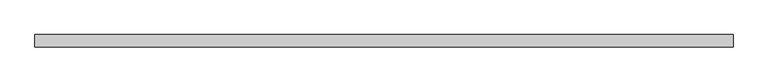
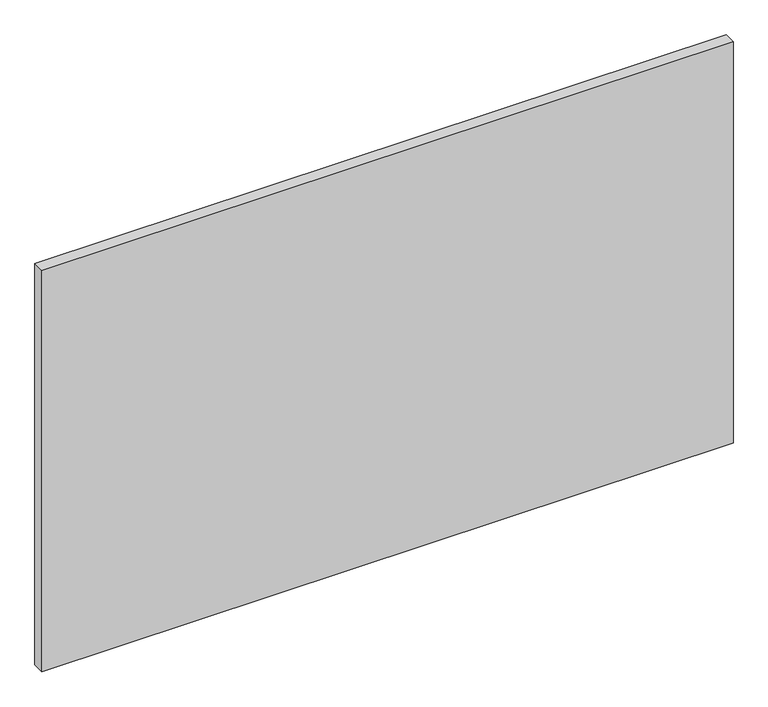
"""IFC4 building model written with IfcOpenShell, lengths in millimetres: plate geometry, Системная панель : С остеклением."""

from ifc_helpers import new_model, si_unit, origin, origin_with_axes, place, context, project, spatial, polyline, outline, extrude, source, transform, mapped, element, save


def plate_31d2c7fd(model_context):
    return source(origin(), model_context, "Body", "SweptSolid", [
        extrude(outline(polyline([(712.5, 24.5), (-712.5, 24.5), (-712.5, 49.5), (712.5, 49.5), (712.5, 24.5)])), origin_with_axes(), (0.0, 0.0, 1.0), 875.0),
    ])


if __name__ == "__main__":
    model = new_model("IFC4")
    model_context = context("Model", 3, world=origin())
    ifc_project = project(units=[si_unit("LENGTHUNIT", "METRE", prefix="MILLI")], contexts=[model_context])
    site = spatial("IfcSite", under=ifc_project)
    building = spatial("IfcBuilding", under=site)
    placement = place(None, origin())
    plate_shape = plate_31d2c7fd(model_context)
    element("IfcPlate", 1, ObjectType="Системная панель : С остеклением", at=placement, inside=building, context=model_context, shape_type="MappedRepresentation", body=[
        mapped(plate_shape, transform((0.0, 0.0, 0.0), x_axis=(1.0, 0.0, 0.0), y_axis=(0.0, 1.0, 0.0), z_axis=(0.0, 0.0, 1.0))),
    ])
    save(model, "model.ifc")
